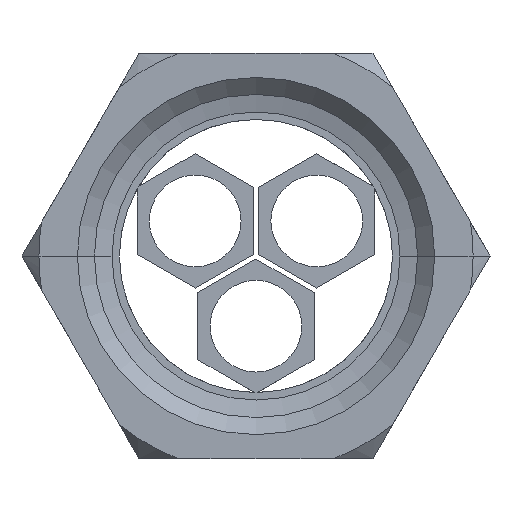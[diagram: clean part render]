
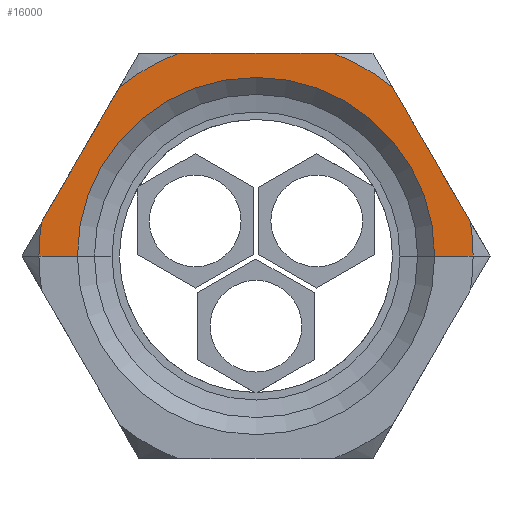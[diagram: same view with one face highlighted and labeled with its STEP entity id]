
A CAD part, left-side view. The second image highlights one B-rep face of the part: STEP entity #16000.
In plain terms, the highlighted conical face has half-angle 89.994 degrees and reference radius 21.95 mm.
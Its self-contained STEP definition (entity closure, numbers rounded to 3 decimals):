
#6930=CARTESIAN_POINT('',(270.975,33.916,
19.001));
#6940=DIRECTION('',(0.,-0.866,
0.5));
#6950=DIRECTION('',(0.,-0.5,
-0.866));
#6960=AXIS2_PLACEMENT_3D('',#6930,#6940,#6950);
#6970=PLANE('',#6960);
#7800=CARTESIAN_POINT('',(270.973,55.855,
19.001));
#7810=DIRECTION('',(0.,0.,
1.));
#7820=DIRECTION('',(0.,-1.,
0.));
#7830=AXIS2_PLACEMENT_3D('',#7800,#7810,#7820);
#7840=PLANE('',#7830);
#8670=CARTESIAN_POINT('',(270.972,66.825,
0.001));
#8680=DIRECTION('',(0.,0.866,
0.5));
#8690=DIRECTION('',(0.,-0.5,
0.866));
#8700=AXIS2_PLACEMENT_3D('',#8670,#8680,#8690);
#8710=PLANE('',#8700);
#14210=CARTESIAN_POINT('',(245.557,61.631,0.));
#14220=VERTEX_POINT('',#14210);
#14250=CARTESIAN_POINT('',(245.557,44.883,0.));
#14260=DIRECTION('',(1.,0.,0.));
#14270=DIRECTION('',(0.,-1.,0.));
#14280=AXIS2_PLACEMENT_3D('',#14250,#14260,#14270);
#14290=CIRCLE('',#14280,16.747);
#14300=CARTESIAN_POINT('',(245.557,28.136,
0.));
#14310=VERTEX_POINT('',#14300);
#14320=EDGE_CURVE('',#14220,#14310,#14290,.T.);
#14570=CARTESIAN_POINT('',(245.556,44.883,0.));
#14580=DIRECTION('',(1.,0.,0.));
#14590=DIRECTION('',(0.,-1.,0.));
#14600=AXIS2_PLACEMENT_3D('',#14570,#14580,#14590);
#14610=CIRCLE('',#14600,20.35);
#14620=CARTESIAN_POINT('',(245.556,37.594,
19.));
#14630=VERTEX_POINT('',#14620);
#14640=CARTESIAN_POINT('',(245.556,32.073,
15.813));
#14650=VERTEX_POINT('',#14640);
#14660=EDGE_CURVE('',#14630,#14650,#14610,.T.);
#15100=CARTESIAN_POINT('',(245.556,44.883,0.));
#15110=DIRECTION('',(-1.,0.,0.));
#15120=DIRECTION('',(0.,1.,0.));
#15130=AXIS2_PLACEMENT_3D('',#15100,#15110,#15120);
#15140=CONICAL_SURFACE('',#15130,21.95,1.571);
#15150=CARTESIAN_POINT('',(245.556,66.834,0.));
#15160=DIRECTION('',(0.,1.,0.));
#15170=VECTOR('',#15160,1.);
#15180=LINE('',#15150,#15170);
#15190=CARTESIAN_POINT('',(245.556,65.233,0.));
#15200=VERTEX_POINT('',#15190);
#15210=EDGE_CURVE('',#14220,#15200,#15180,.T.);
#15220=ORIENTED_EDGE('',*,*,#15210,.F.);
#15230=CARTESIAN_POINT('',(245.556,64.982,
3.187));
#15240=VERTEX_POINT('',#15230);
#15250=EDGE_CURVE('',#15200,#15240,#14610,.T.);
#15260=ORIENTED_EDGE('',*,*,#15250,.F.);
#15270=CARTESIAN_POINT('',(245.556,64.982,
3.187));
#15280=CARTESIAN_POINT('',(245.556,64.375,
4.239));
#15290=CARTESIAN_POINT('',(245.556,63.767,
5.291));
#15300=CARTESIAN_POINT('',(245.556,63.16,
6.344));
#15310=CARTESIAN_POINT('',(245.556,62.553,
7.396));
#15320=CARTESIAN_POINT('',(245.556,61.945,
8.448));
#15330=CARTESIAN_POINT('',(245.556,61.338,
9.5));
#15340=CARTESIAN_POINT('',(245.556,60.73,
10.552));
#15350=CARTESIAN_POINT('',(245.556,60.123,
11.604));
#15360=CARTESIAN_POINT('',(245.556,59.515,
12.656));
#15370=CARTESIAN_POINT('',(245.556,58.908,
13.709));
#15380=CARTESIAN_POINT('',(245.556,58.3,
14.761));
#15390=CARTESIAN_POINT('',(245.556,57.693,
15.813));
#15400=B_SPLINE_CURVE_WITH_KNOTS('',3,(#15270,#15280,#15290,#15300,
#15310,#15320,#15330,#15340,#15350,#15360,#15370,#15380,#15390),
.UNSPECIFIED.,.F.,.F.,(4,3,3,3,4),(0.,3.645,7.289,
10.934,14.579),.UNSPECIFIED.);
#15410=SURFACE_CURVE('',#15400,(#15140,#8710),.CURVE_3D.);
#15420=CARTESIAN_POINT('',(245.556,57.693,
15.813));
#15430=VERTEX_POINT('',#15420);
#15440=EDGE_CURVE('',#15240,#15430,#15410,.T.);
#15450=ORIENTED_EDGE('',*,*,#15440,.F.);
#15460=CARTESIAN_POINT('',(245.556,52.173,
19.));
#15470=VERTEX_POINT('',#15460);
#15480=EDGE_CURVE('',#15430,#15470,#14610,.T.);
#15490=ORIENTED_EDGE('',*,*,#15480,.F.);
#15500=CARTESIAN_POINT('',(245.556,52.173,
19.));
#15510=CARTESIAN_POINT('',(245.556,50.958,
19.));
#15520=CARTESIAN_POINT('',(245.556,49.743,
19.));
#15530=CARTESIAN_POINT('',(245.556,48.528,
19.));
#15540=CARTESIAN_POINT('',(245.556,47.313,
19.));
#15550=CARTESIAN_POINT('',(245.556,46.098,
19.));
#15560=CARTESIAN_POINT('',(245.556,44.883,
19.));
#15570=CARTESIAN_POINT('',(245.556,43.668,
19.));
#15580=CARTESIAN_POINT('',(245.556,42.453,
19.));
#15590=CARTESIAN_POINT('',(245.556,41.238,
19.));
#15600=CARTESIAN_POINT('',(245.556,40.024,
19.));
#15610=CARTESIAN_POINT('',(245.556,38.809,
19.));
#15620=CARTESIAN_POINT('',(245.556,37.594,
19.));
#15630=B_SPLINE_CURVE_WITH_KNOTS('',3,(#15500,#15510,#15520,#15530,
#15540,#15550,#15560,#15570,#15580,#15590,#15600,#15610,#15620),
.UNSPECIFIED.,.F.,.F.,(4,3,3,3,4),(0.,3.645,7.289,
10.934,14.579),.UNSPECIFIED.);
#15640=SURFACE_CURVE('',#15630,(#15140,#7840),.CURVE_3D.);
#15650=EDGE_CURVE('',#15470,#14630,#15640,.T.);
#15660=ORIENTED_EDGE('',*,*,#15650,.F.);
#15670=ORIENTED_EDGE('',*,*,#14660,.F.);
#15680=CARTESIAN_POINT('',(245.556,32.073,
15.813));
#15690=CARTESIAN_POINT('',(245.556,31.466,
14.761));
#15700=CARTESIAN_POINT('',(245.556,30.858,
13.709));
#15710=CARTESIAN_POINT('',(245.556,30.251,
12.656));
#15720=CARTESIAN_POINT('',(245.556,29.644,
11.604));
#15730=CARTESIAN_POINT('',(245.556,29.036,
10.552));
#15740=CARTESIAN_POINT('',(245.556,28.429,
9.5));
#15750=CARTESIAN_POINT('',(245.556,27.821,
8.448));
#15760=CARTESIAN_POINT('',(245.556,27.214,
7.396));
#15770=CARTESIAN_POINT('',(245.556,26.606,
6.344));
#15780=CARTESIAN_POINT('',(245.556,25.999,
5.291));
#15790=CARTESIAN_POINT('',(245.556,25.391,
4.239));
#15800=CARTESIAN_POINT('',(245.556,24.784,
3.187));
#15810=B_SPLINE_CURVE_WITH_KNOTS('',3,(#15680,#15690,#15700,#15710,
#15720,#15730,#15740,#15750,#15760,#15770,#15780,#15790,#15800),
.UNSPECIFIED.,.F.,.F.,(4,3,3,3,4),(0.,3.645,7.289,
10.934,14.579),.UNSPECIFIED.);
#15820=SURFACE_CURVE('',#15810,(#15140,#6970),.CURVE_3D.);
#15830=CARTESIAN_POINT('',(245.556,24.784,
3.187));
#15840=VERTEX_POINT('',#15830);
#15850=EDGE_CURVE('',#14650,#15840,#15820,.T.);
#15860=ORIENTED_EDGE('',*,*,#15850,.F.);
#15870=CARTESIAN_POINT('',(245.556,24.533,
0.));
#15880=VERTEX_POINT('',#15870);
#15890=EDGE_CURVE('',#15840,#15880,#14610,.T.);
#15900=ORIENTED_EDGE('',*,*,#15890,.F.);
#15910=CARTESIAN_POINT('',(245.556,22.933,
0.));
#15920=DIRECTION('',(0.,-1.,
0.));
#15930=VECTOR('',#15920,1.);
#15940=LINE('',#15910,#15930);
#15950=EDGE_CURVE('',#14310,#15880,#15940,.T.);
#15960=ORIENTED_EDGE('',*,*,#15950,.T.);
#15970=ORIENTED_EDGE('',*,*,#14320,.T.);
#15980=EDGE_LOOP('',(#15970,#15960,#15900,#15860,#15670,#15660,#15490,
#15450,#15260,#15220));
#15990=FACE_OUTER_BOUND('',#15980,.T.);
#16000=ADVANCED_FACE('',(#15990),#15140,.F.);
